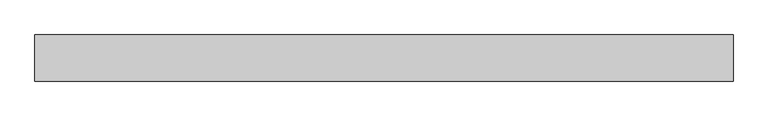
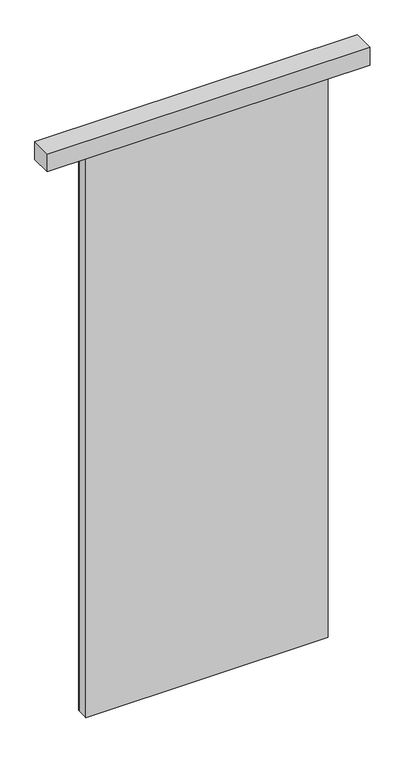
"""IFC4 building model written with IfcOpenShell, lengths in millimetres: proxy geometry, Renson_Amani_Loggia_Canvas_Fix : Renson_Amani_Loggia_Canvas_Fix."""

from ifc_helpers import new_model, si_unit, frame, origin, place, context, project, spatial, polyline, outline, extrude, source, transform, mapped, element, save


def generic_models_fa0c44fb(model_context):
    return source(origin(), model_context, "Body", "SweptSolid", [
        extrude(outline(polyline([(600.0, 46.0), (600.0, -34.0), (-600.0, -34.0), (-600.0, 46.0), (600.0, 46.0)])), frame((0.0, 0.0, 2250.0), z_axis=(0.0, 0.0, 1.0), x_axis=(1.0, 0.0, 0.0)), (0.0, 0.0, 1.0), 70.0),
        extrude(outline(polyline([(450.0, 20.0), (-450.0, 20.0), (-450.0, 23.0), (450.0, 23.0), (450.0, 20.0)])), frame((0.0, 0.0, 45.0), z_axis=(0.0, 0.0, 1.0), x_axis=(1.0, 0.0, 0.0)), (0.0, 0.0, 1.0), 2205.0),
        extrude(outline(polyline([(450.0, -23.0), (-450.0, -23.0), (-450.0, -20.0), (450.0, -20.0), (450.0, -23.0)])), frame((0.0, 0.0, 45.0), z_axis=(0.0, 0.0, 1.0), x_axis=(1.0, 0.0, 0.0)), (0.0, 0.0, 1.0), 2205.0),
        extrude(outline(polyline([(2250.0, -450.0), (45.0, -450.0), (45.0, 450.0), (2250.0, 450.0), (2250.0, -450.0)]), holes=[polyline([(2210.0, 410.0), (85.0, 410.0), (85.0, -410.0), (2210.0, -410.0), (2210.0, 410.0)])]), frame((0.0, -20.0, 0.0), z_axis=(0.0, 1.0, 0.0), x_axis=(0.0, 0.0, 1.0)), (0.0, 0.0, 1.0), 40.0),
    ])


if __name__ == "__main__":
    model = new_model("IFC4")
    model_context = context("Model", 3, world=origin())
    ifc_project = project(units=[si_unit("LENGTHUNIT", "METRE", prefix="MILLI")], contexts=[model_context])
    site = spatial("IfcSite", under=ifc_project)
    building = spatial("IfcBuilding", under=site)
    placement = place(None, origin())
    generic_models_shape = generic_models_fa0c44fb(model_context)
    element("IfcBuildingElementProxy", 1, Name="Renson_Amani_Loggia_Canvas_Fix : Renson_Amani_Loggia_Canvas_Fix", ObjectType="Renson_Amani_Loggia_Canvas_Fix : Renson_Amani_Loggia_Canvas_Fix", at=placement, inside=building, context=model_context, shape_type="MappedRepresentation", body=[
        mapped(generic_models_shape, transform((0.0, 0.0, 0.0), x_axis=(1.0, 0.0, 0.0), y_axis=(0.0, 1.0, 0.0), z_axis=(0.0, 0.0, 1.0))),
    ])
    save(model, "model.ifc")
